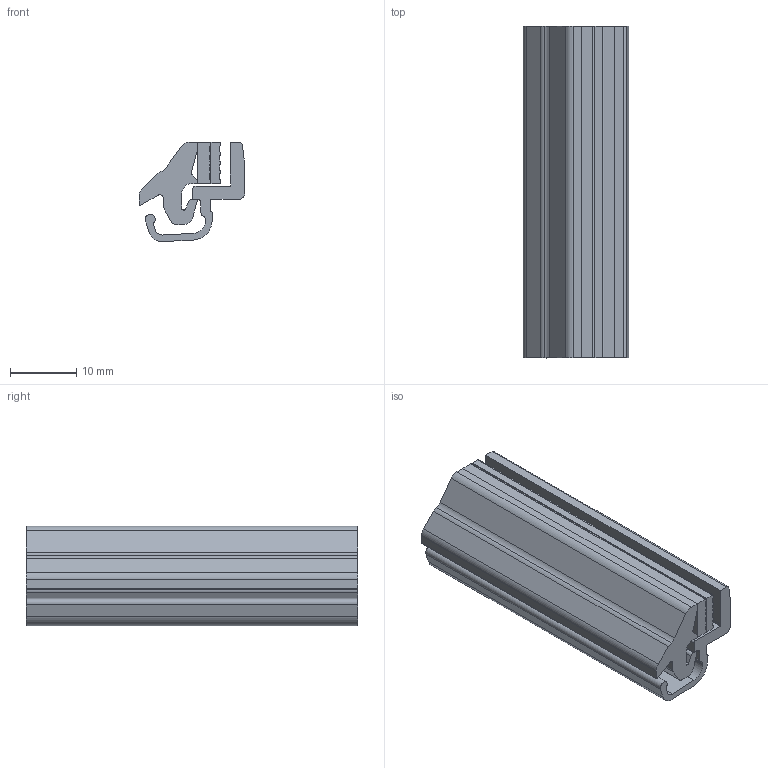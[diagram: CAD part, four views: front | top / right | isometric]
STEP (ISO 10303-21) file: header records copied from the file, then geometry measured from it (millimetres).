
FILE_DESCRIPTION(('STEP AP214'),'1');
FILE_NAME('RR2S.stp','2021-05-26T09:08:19',(' '),(' '),'Spatial InterOp 3D',' ',' ');
FILE_SCHEMA(('AUTOMOTIVE_DESIGN { 1 0 10303 214 1 1 1 1 }'));
Length unit declared in the file: millimetre
Products named in the file (6): RR2S; RR2B; RROP; RROP_0; RROP_2; RROP_1
Assembly tree (5 placements, depth 3):
  RR2S
    RR2B
    RROP
      RROP_0
      RROP_2
      RROP_1
Bounding box: 15.9 x 50 x 14.96 mm (x, y, z)
Volume: 6098.1 mm3; surface area: 7286.9 mm2
Topology: 4 solids, 4 shells, 99 faces, 273 edges, 182 vertices
Faces by surface type: plane 58, cylinder 41
Entity records: 4096 total; most frequent: DIRECTION 567, CARTESIAN_POINT 561, ORIENTED_EDGE 546, EDGE_CURVE 273, LINE 191, VECTOR 191, AXIS2_PLACEMENT_3D 188, VERTEX_POINT 182
